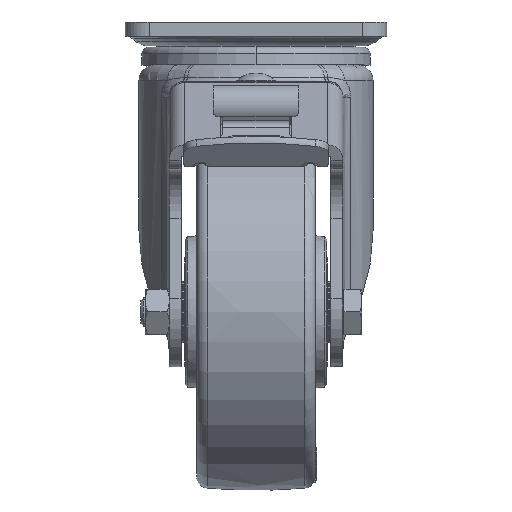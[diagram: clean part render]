
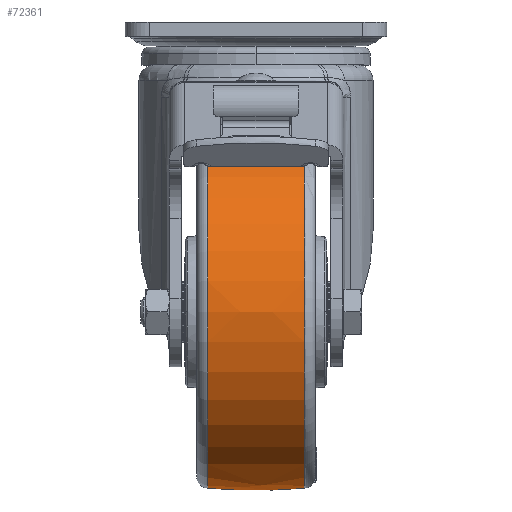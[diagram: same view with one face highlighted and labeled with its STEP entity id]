
A CAD part, top view. The second image highlights one B-rep face of the part: STEP entity #72361.
In plain terms, the highlighted free-form (B-spline) face has degree [3, 3] with [7, 4] control points.
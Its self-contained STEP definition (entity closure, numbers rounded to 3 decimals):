
#3241 = CIRCLE ( 'NONE', #89404, 250. ) ;
#4852 = DIRECTION ( 'NONE',  ( 0., 0., -1. ) ) ;
#5351 = CARTESIAN_POINT ( 'NONE',  ( 20.408, -74.166, 0. ) ) ;
#5472 = CARTESIAN_POINT ( 'NONE',  ( 21.223, 0., -74.098 ) ) ;
#7329 = CARTESIAN_POINT ( 'NONE',  ( 21.223, -45.6, -74.098 ) ) ;
#8446 = CARTESIAN_POINT ( 'NONE',  ( 0., -175., 0. ) ) ;
#9361 = DIRECTION ( 'NONE',  ( 0., 0., 1. ) ) ;
#15644 = VERTEX_POINT ( 'NONE', #63732 ) ;
#15837 =( BOUNDED_SURFACE ( )  B_SPLINE_SURFACE ( 3, 3, ( 
 ( #113945, #49606, #16737, #80623 ),
 ( #125181, #124721, #70723, #38305 ),
 ( #114403, #60866, #91836, #7329 ),
 ( #136009, #69782, #71642, #5472 ),
 ( #104047, #16274, #123795, #91394 ),
 ( #27031, #113493, #102184, #59471 ),
 ( #134610, #70254, #105916, #41582 ) ),
 .UNSPECIFIED., .F., .F., .T. ) 
 B_SPLINE_SURFACE_WITH_KNOTS ( ( 4, 3, 4 ),
 ( 4, 4 ),
 ( 0., 1., 2. ),
 ( 0., 1. ),
 .UNSPECIFIED. ) 
 GEOMETRIC_REPRESENTATION_ITEM ( )  RATIONAL_B_SPLINE_SURFACE ( (
 ( 1.189, 1.187, 1.187, 1.189),
 ( 0.939, 0.937, 0.937, 0.939),
 ( 0.939, 0.937, 0.937, 0.939),
 ( 1.189, 1.187, 1.187, 1.189),
 ( 0.939, 0.937, 0.937, 0.939),
 ( 0.939, 0.937, 0.937, 0.939),
 ( 1.189, 1.187, 1.187, 1.189) ) ) 
 REPRESENTATION_ITEM ( '' )  SURFACE ( )  );
#16242 = CARTESIAN_POINT ( 'NONE',  ( 20.408, 0., 0. ) ) ;
#16274 = CARTESIAN_POINT ( 'NONE',  ( -7.091, 46.34, -75.302 ) ) ;
#16737 = CARTESIAN_POINT ( 'NONE',  ( 7.091, -75.153, 4.728 ) ) ;
#18839 = FACE_OUTER_BOUND ( 'NONE', #69416, .T. ) ;
#27031 = CARTESIAN_POINT ( 'NONE',  ( -21.223, 76.815, -40.857 ) ) ;
#30541 = EDGE_CURVE ( 'NONE', #86538, #15644, #114230, .T. ) ;
#36873 = DIRECTION ( 'NONE',  ( 0., -1., 0. ) ) ;
#37232 = DIRECTION ( 'NONE',  ( 0.082, -0.997, 0. ) ) ;
#38305 = CARTESIAN_POINT ( 'NONE',  ( 21.223, -76.815, -40.857 ) ) ;
#41582 = CARTESIAN_POINT ( 'NONE',  ( 21.223, 73.951, 4.653 ) ) ;
#48491 = AXIS2_PLACEMENT_3D ( 'NONE', #83358, #62691, #106351 ) ;
#49606 = CARTESIAN_POINT ( 'NONE',  ( -7.091, -75.153, 4.728 ) ) ;
#59471 = CARTESIAN_POINT ( 'NONE',  ( 21.223, 76.815, -40.857 ) ) ;
#60866 = CARTESIAN_POINT ( 'NONE',  ( -7.091, -46.34, -75.302 ) ) ;
#62691 = DIRECTION ( 'NONE',  ( 1., 0., 0. ) ) ;
#63732 = CARTESIAN_POINT ( 'NONE',  ( 20.408, 74.166, 0. ) ) ;
#67087 = AXIS2_PLACEMENT_3D ( 'NONE', #8446, #9361, #84480 ) ;
#67111 = ORIENTED_EDGE ( 'NONE', *, *, #137214, .T. ) ;
#69416 = EDGE_LOOP ( 'NONE', ( #67111, #115703, #92294, #90434 ) ) ;
#69782 = CARTESIAN_POINT ( 'NONE',  ( -7.091, 0., -75.302 ) ) ;
#70254 = CARTESIAN_POINT ( 'NONE',  ( -7.091, 75.153, 4.728 ) ) ;
#70723 = CARTESIAN_POINT ( 'NONE',  ( 7.091, -78.063, -41.521 ) ) ;
#71642 = CARTESIAN_POINT ( 'NONE',  ( 7.091, 0., -75.302 ) ) ;
#72361 = ADVANCED_FACE ( 'NONE', ( #18839 ), #15837, .T. ) ;
#76576 = EDGE_CURVE ( 'NONE', #86538, #93914, #3241, .T. ) ;
#76823 = VERTEX_POINT ( 'NONE', #127861 ) ;
#78706 = CARTESIAN_POINT ( 'NONE',  ( -20.408, -74.166, 0. ) ) ;
#79075 = CARTESIAN_POINT ( 'NONE',  ( 0., 175., 0. ) ) ;
#80623 = CARTESIAN_POINT ( 'NONE',  ( 21.223, -73.951, 4.653 ) ) ;
#83358 = CARTESIAN_POINT ( 'NONE',  ( -20.408, 0., 0. ) ) ;
#84480 = DIRECTION ( 'NONE',  ( 0.082, 0.997, 0. ) ) ;
#86538 = VERTEX_POINT ( 'NONE', #5351 ) ;
#89404 = AXIS2_PLACEMENT_3D ( 'NONE', #79075, #4852, #37232 ) ;
#90433 = DIRECTION ( 'NONE',  ( 1., 0., 0. ) ) ;
#90434 = ORIENTED_EDGE ( 'NONE', *, *, #76576, .T. ) ;
#91394 = CARTESIAN_POINT ( 'NONE',  ( 21.223, 45.6, -74.098 ) ) ;
#91836 = CARTESIAN_POINT ( 'NONE',  ( 7.091, -46.34, -75.302 ) ) ;
#92294 = ORIENTED_EDGE ( 'NONE', *, *, #30541, .F. ) ;
#93914 = VERTEX_POINT ( 'NONE', #78706 ) ;
#97226 = EDGE_CURVE ( 'NONE', #15644, #76823, #135045, .T. ) ;
#98616 = AXIS2_PLACEMENT_3D ( 'NONE', #16242, #90433, #36873 ) ;
#102184 = CARTESIAN_POINT ( 'NONE',  ( 7.091, 78.063, -41.521 ) ) ;
#104047 = CARTESIAN_POINT ( 'NONE',  ( -21.223, 45.6, -74.098 ) ) ;
#105916 = CARTESIAN_POINT ( 'NONE',  ( 7.091, 75.153, 4.728 ) ) ;
#106351 = DIRECTION ( 'NONE',  ( 0., -1., 0. ) ) ;
#110998 = CIRCLE ( 'NONE', #48491, 74.166 ) ;
#113493 = CARTESIAN_POINT ( 'NONE',  ( -7.091, 78.063, -41.521 ) ) ;
#113945 = CARTESIAN_POINT ( 'NONE',  ( -21.223, -73.951, 4.653 ) ) ;
#114230 = CIRCLE ( 'NONE', #98616, 74.166 ) ;
#114403 = CARTESIAN_POINT ( 'NONE',  ( -21.223, -45.6, -74.098 ) ) ;
#115703 = ORIENTED_EDGE ( 'NONE', *, *, #97226, .F. ) ;
#123795 = CARTESIAN_POINT ( 'NONE',  ( 7.091, 46.34, -75.302 ) ) ;
#124721 = CARTESIAN_POINT ( 'NONE',  ( -7.091, -78.063, -41.521 ) ) ;
#125181 = CARTESIAN_POINT ( 'NONE',  ( -21.223, -76.815, -40.857 ) ) ;
#127861 = CARTESIAN_POINT ( 'NONE',  ( -20.408, 74.166, 0. ) ) ;
#134610 = CARTESIAN_POINT ( 'NONE',  ( -21.223, 73.951, 4.653 ) ) ;
#135045 = CIRCLE ( 'NONE', #67087, 250. ) ;
#136009 = CARTESIAN_POINT ( 'NONE',  ( -21.223, 0., -74.098 ) ) ;
#137214 = EDGE_CURVE ( 'NONE', #93914, #76823, #110998, .T. ) ;
